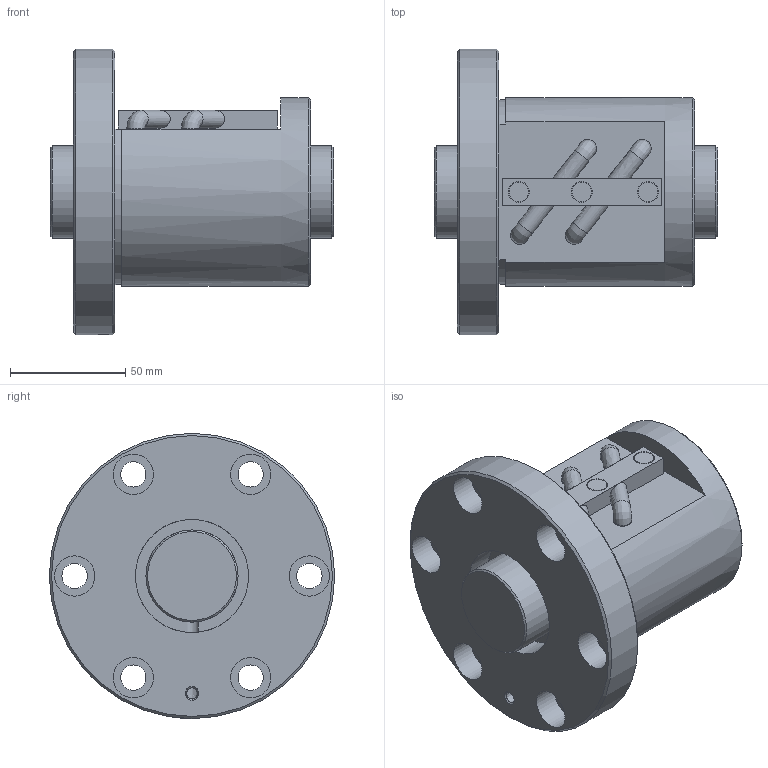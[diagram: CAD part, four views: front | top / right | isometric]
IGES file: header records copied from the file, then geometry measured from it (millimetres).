
Start section: Data from Parasolid IGES Translator 26.0.171, Copyright(c) 2006 Siemens PLM Software. All Rights Reserved.
Global section: file name: BIF4010V-5RRG0+123LC0_000.igs; native system: By Siemens PLM Incorporated; preprocessor: XPlus GENERIC/IGES 26.0.171; author: Noname; organization: Noname; date: 20240715.082419; units: millimetre
Bounding box: 123 x 124 x 124 mm (x, y, z)
Surface area: 90501 mm2 (no closed solid volume)
Topology: 0 solids, 0 shells, 96 faces, 452 edges, 415 vertices
Faces by surface type: revolution 55, extrusion 41
